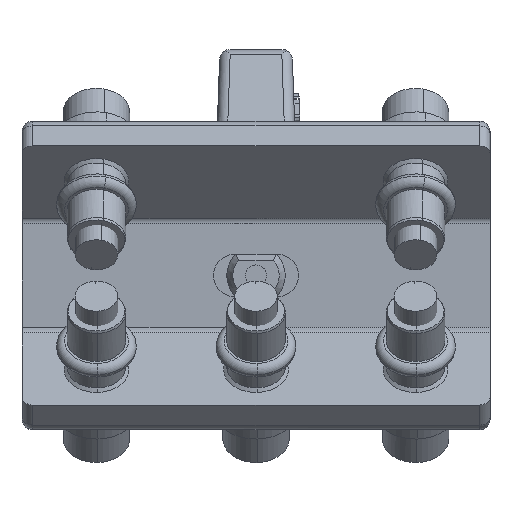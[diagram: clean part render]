
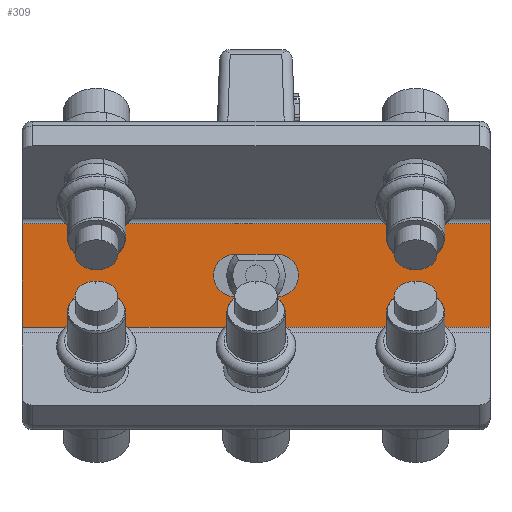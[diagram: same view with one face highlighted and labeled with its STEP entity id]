
A CAD part, front view. The second image highlights one B-rep face of the part: STEP entity #309.
In plain terms, the highlighted planar face has unit normal (0, -1, 0).
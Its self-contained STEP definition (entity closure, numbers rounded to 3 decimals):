
#177=CARTESIAN_POINT('Vertex',(4.,25.,-4.)) ;
#180=CARTESIAN_POINT('Axis2P3D Location',(4.,25.,0.)) ;
#184=CARTESIAN_POINT('Vertex',(4.,25.,4.)) ;
#204=CARTESIAN_POINT('Line Origine',(0.,25.,4.)) ;
#208=CARTESIAN_POINT('Vertex',(-4.,25.,4.)) ;
#228=CARTESIAN_POINT('Axis2P3D Location',(-4.,25.,0.)) ;
#232=CARTESIAN_POINT('Vertex',(-4.,25.,-4.)) ;
#252=CARTESIAN_POINT('Line Origine',(0.,25.,-4.)) ;
#264=CARTESIAN_POINT('Axis2P3D Location',(0.,25.,9.734)) ;
#269=CARTESIAN_POINT('Line Origine',(0.,25.,9.734)) ;
#273=CARTESIAN_POINT('Vertex',(-44.,25.,9.734)) ;
#275=CARTESIAN_POINT('Vertex',(44.,25.,9.734)) ;
#278=CARTESIAN_POINT('Line Origine',(-44.,25.,0.)) ;
#282=CARTESIAN_POINT('Vertex',(-44.,25.,-9.734)) ;
#285=CARTESIAN_POINT('Line Origine',(0.,25.,-9.734)) ;
#289=CARTESIAN_POINT('Vertex',(44.,25.,-9.734)) ;
#292=CARTESIAN_POINT('Line Origine',(44.,25.,0.)) ;
#181=DIRECTION('Axis2P3D Direction',(0.,-1.,-0.)) ;
#205=DIRECTION('Vector Direction',(1.,0.,0.)) ;
#229=DIRECTION('Axis2P3D Direction',(0.,-1.,0.)) ;
#253=DIRECTION('Vector Direction',(-1.,0.,0.)) ;
#265=DIRECTION('Axis2P3D Direction',(0.,-1.,0.)) ;
#266=DIRECTION('Axis2P3D XDirection',(0.,0.,-1.)) ;
#270=DIRECTION('Vector Direction',(1.,0.,0.)) ;
#279=DIRECTION('Vector Direction',(0.,0.,-1.)) ;
#286=DIRECTION('Vector Direction',(1.,0.,0.)) ;
#293=DIRECTION('Vector Direction',(0.,0.,-1.)) ;
#182=AXIS2_PLACEMENT_3D('Circle Axis2P3D',#180,#181,$) ;
#230=AXIS2_PLACEMENT_3D('Circle Axis2P3D',#228,#229,$) ;
#267=AXIS2_PLACEMENT_3D('Plane Axis2P3D',#264,#265,#266) ;
#298=ORIENTED_EDGE('',*,*,#277,.F.) ;
#299=ORIENTED_EDGE('',*,*,#284,.T.) ;
#300=ORIENTED_EDGE('',*,*,#291,.T.) ;
#301=ORIENTED_EDGE('',*,*,#296,.F.) ;
#304=ORIENTED_EDGE('',*,*,#234,.F.) ;
#305=ORIENTED_EDGE('',*,*,#210,.F.) ;
#306=ORIENTED_EDGE('',*,*,#186,.F.) ;
#307=ORIENTED_EDGE('',*,*,#256,.F.) ;
#308=FACE_BOUND('',#303,.T.) ;
#206=VECTOR('Line Direction',#205,1.) ;
#254=VECTOR('Line Direction',#253,1.) ;
#271=VECTOR('Line Direction',#270,1.) ;
#280=VECTOR('Line Direction',#279,1.) ;
#287=VECTOR('Line Direction',#286,1.) ;
#294=VECTOR('Line Direction',#293,1.) ;
#309=ADVANCED_FACE('Anbindung mittig SW50',(#302,#308),#268,.T.) ;
#183=CIRCLE('generated circle',#182,4.) ;
#231=CIRCLE('generated circle',#230,4.) ;
#186=EDGE_CURVE('',#178,#185,#183,.T.) ;
#210=EDGE_CURVE('',#185,#209,#207,.F.) ;
#234=EDGE_CURVE('',#209,#233,#231,.T.) ;
#256=EDGE_CURVE('',#233,#178,#255,.F.) ;
#277=EDGE_CURVE('',#274,#276,#272,.T.) ;
#284=EDGE_CURVE('',#274,#283,#281,.T.) ;
#291=EDGE_CURVE('',#283,#290,#288,.T.) ;
#296=EDGE_CURVE('',#276,#290,#295,.T.) ;
#297=EDGE_LOOP('',(#298,#299,#300,#301)) ;
#303=EDGE_LOOP('',(#304,#305,#306,#307)) ;
#302=FACE_OUTER_BOUND('',#297,.T.) ;
#207=LINE('Line',#204,#206) ;
#255=LINE('Line',#252,#254) ;
#272=LINE('Line',#269,#271) ;
#281=LINE('Line',#278,#280) ;
#288=LINE('Line',#285,#287) ;
#295=LINE('Line',#292,#294) ;
#268=PLANE('',#267) ;
#178=VERTEX_POINT('',#177) ;
#185=VERTEX_POINT('',#184) ;
#209=VERTEX_POINT('',#208) ;
#233=VERTEX_POINT('',#232) ;
#274=VERTEX_POINT('',#273) ;
#276=VERTEX_POINT('',#275) ;
#283=VERTEX_POINT('',#282) ;
#290=VERTEX_POINT('',#289) ;
